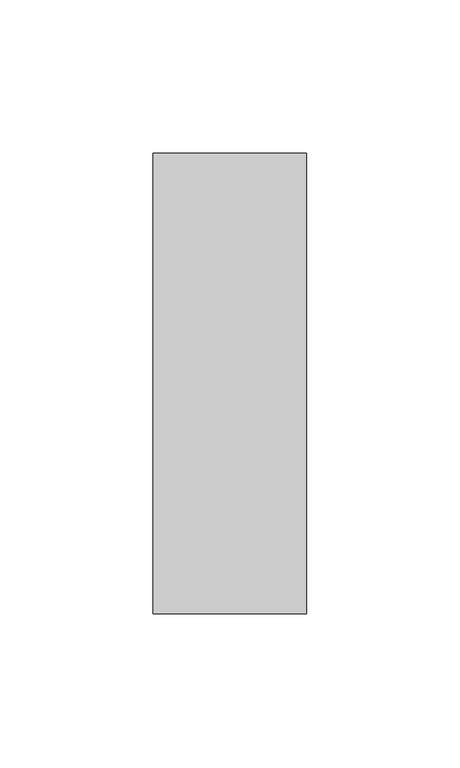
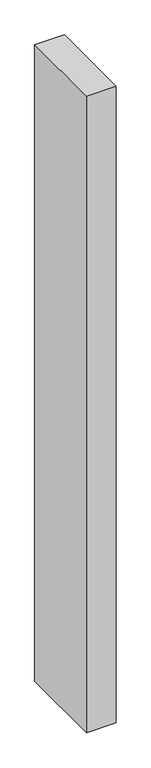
"""IFC4 building model written with IfcOpenShell, lengths in millimetres: member geometry, Прямоугольный импост : 50 x 150 мм."""

from ifc_helpers import new_model, si_unit, frame, origin, place, context, project, spatial, polyline, outline, extrude, source, transform, mapped, element, save


def member_7e60908f(model_context):
    return source(origin(), model_context, "Body", "SweptSolid", [
        extrude(outline(polyline([(25.0, 75.0), (25.0, -75.0), (-25.0, -75.0), (-25.0, 75.0), (25.0, 75.0)])), frame((0.0, 0.0, -1127.9170554), z_axis=(0.0, 0.0, 1.0), x_axis=(1.0, 0.0, 0.0)), (0.0, 0.0, 1.0), 1127.9170554),
    ])


if __name__ == "__main__":
    model = new_model("IFC4")
    model_context = context("Model", 3, world=origin())
    ifc_project = project(units=[si_unit("LENGTHUNIT", "METRE", prefix="MILLI")], contexts=[model_context])
    site = spatial("IfcSite", under=ifc_project)
    building = spatial("IfcBuilding", under=site)
    placement = place(None, origin())
    member_shape = member_7e60908f(model_context)
    element("IfcMember", 1, ObjectType="Прямоугольный импост : 50 x 150 мм", at=placement, inside=building, context=model_context, shape_type="MappedRepresentation", body=[
        mapped(member_shape, transform((0.0, 0.0, 0.0), x_axis=(1.0, 0.0, 0.0), y_axis=(0.0, 1.0, 0.0), z_axis=(0.0, 0.0, 1.0))),
    ])
    save(model, "model.ifc")
